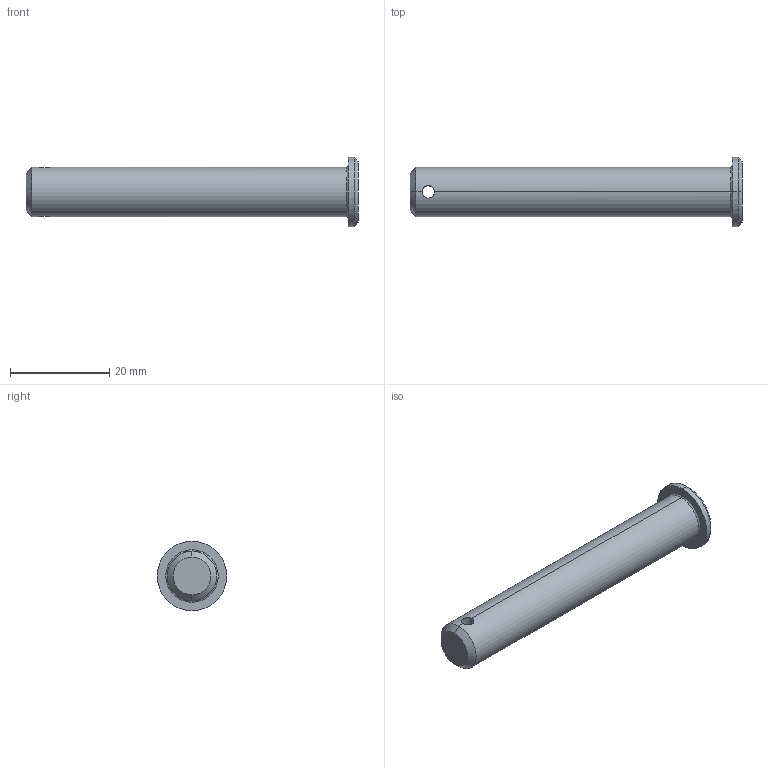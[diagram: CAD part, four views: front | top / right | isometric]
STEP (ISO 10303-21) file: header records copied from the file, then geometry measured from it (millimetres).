
FILE_DESCRIPTION (( 'STEP AP203' ), '1' );
FILE_NAME ('Wiberger-sms2360_10x65.step', '2012-10-09T08:57:16', ( 'Magnus' ), ( 'Wiberger' ), 'SwSTEP 2.0', 'SolidWorks 2011', '' );
FILE_SCHEMA (( 'CONFIG_CONTROL_DESIGN' ));
Length unit declared in the file: millimetre
Products named in the file (1): Wiberger-sms2360_10x65
Bounding box: 67 x 14 x 14 mm (x, y, z)
Volume: 5330.5 mm3; surface area: 2455.9 mm2
Topology: 1 solids, 1 shells, 15 faces, 32 edges, 18 vertices
Faces by surface type: cylinder 6, cone 4, plane 3, torus 2
Entity records: 555 total; most frequent: CARTESIAN_POINT 146, DIRECTION 76, ORIENTED_EDGE 64, EDGE_CURVE 32, AXIS2_PLACEMENT_3D 32, VERTEX_POINT 18, EDGE_LOOP 16, CIRCLE 16
